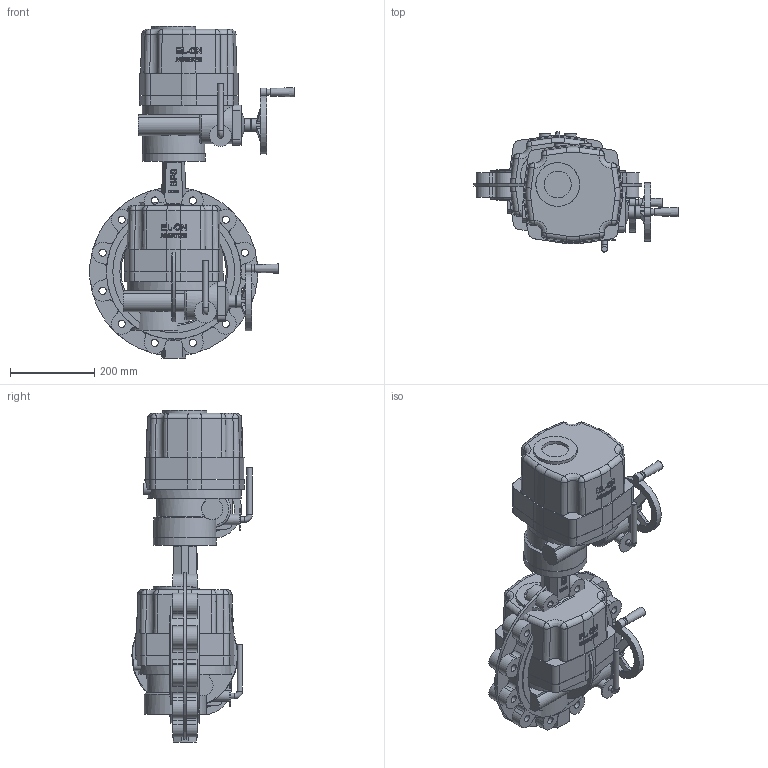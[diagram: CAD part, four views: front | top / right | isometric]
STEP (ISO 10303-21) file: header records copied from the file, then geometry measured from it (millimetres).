
FILE_DESCRIPTION( ( 'Unknown' ), '1' );
FILE_NAME( 'R:/ECCUA/ROOTSI BPS 3D vidinad/Poordklapid Lug type/Butterfly valve(lug) with electric actuator BPS/STEP formaat/BPS 2313250E(R) butterfly valve DN250.stp', 'Unknown', ( 'Unknown' ), ( 'Unknown' ), 'PSStep 10.1', 'Unknown', ' ' );
FILE_SCHEMA( ( 'AUTOMOTIVE_DESIGN { 1 0 10303 214 1 1 1 1 }' ) );
Length unit declared in the file: millimetre
Products named in the file (3): Assem1; BPS 8005300-500 electric actuator DN200-350; Butterfly valve lug type DN250 PN10 BPS
Bounding box: 485.24 x 286 x 789 mm (x, y, z)
Volume: 32496337.5 mm3; surface area: 1964811.7 mm2
Topology: 4 solids, 4 shells, 1298 faces, 3470 edges, 2254 vertices
Faces by surface type: plane 560, cylinder 374, bspline 126, cone 96, extrusion 96, torus 30, sphere 16
Full cylindrical faces by diameter (mm): 8.376 x16, 10.106 x16, 13 x12, 15 x2, 17.294 x24, 18 x2, 25 x2, 27 x4, 30 x4, 35 x2, 52 x2, 64 x2, 104 x2, 106 x2, 134 x2, 148 x2, 150 x2, 250 x2, 290 x4, 320 x4
Entity records: 35762 total; most frequent: CARTESIAN_POINT 15443, ORIENTED_EDGE 3220, DIRECTION 2832, EDGE_CURVE 1610, VERTEX_POINT 1092, AXIS2_PLACEMENT_3D 1083, EDGE_LOOP 814, FACE_OUTER_BOUND 709
